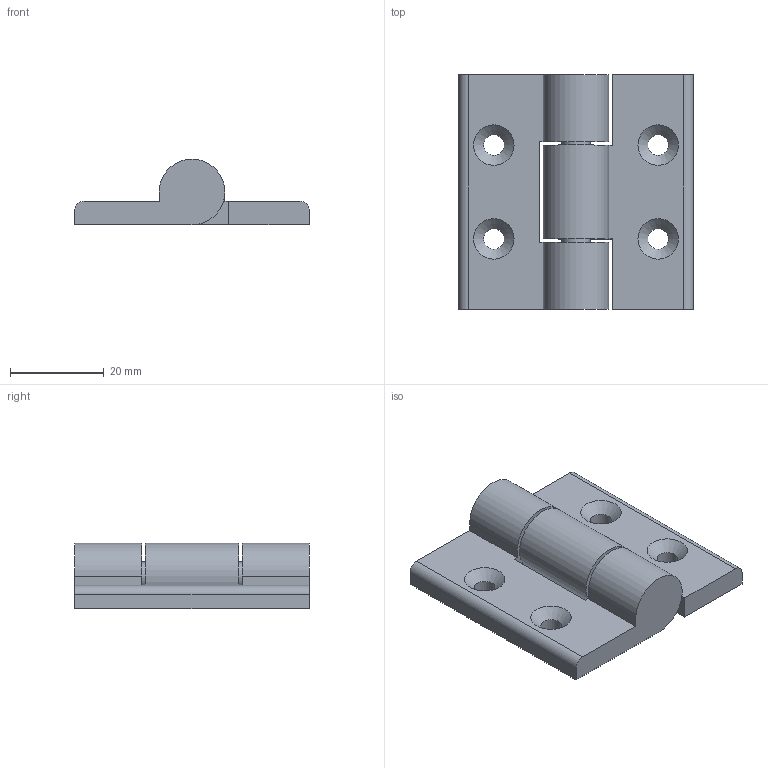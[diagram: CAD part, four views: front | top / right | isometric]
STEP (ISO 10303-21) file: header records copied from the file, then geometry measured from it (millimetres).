
FILE_DESCRIPTION(/* description */ ('STEP AP203'),/* implementation_level */ '2;1');
FILE_NAME(/* name */ 'HHSZ50',/* time_stamp */ '2023-12-22T01:37:28+01:00',/* author */ ('License CC BY-ND 4.0'),/* organization */ ('CADENAS'),/* preprocessor_version */ 'ST-DEVELOPER v19.3',/* originating_system */ 'PARTsolutions',/* authorisation */ ' ');
FILE_SCHEMA (('CONFIG_CONTROL_DESIGN'));
Length unit declared in the file: millimetre
Products named in the file (4): HHSZ50; HHSZ50_b; HHSZ50_c; HHSZ50_a
Assembly tree (3 placements, depth 2):
  HHSZ50
    HHSZ50_b
    HHSZ50_c
    HHSZ50_a
Bounding box: 50 x 50 x 14 mm (x, y, z)
Volume: 16275.8 mm3; surface area: 9285.2 mm2
Topology: 3 solids, 3 shells, 41 faces, 105 edges, 68 vertices
Faces by surface type: plane 20, cylinder 13, cone 4, sphere 4
Full cylindrical faces by diameter (mm): 4.4 x4, 6 x4
Entity records: 1228 total; most frequent: DIRECTION 203, CARTESIAN_POINT 190, ORIENTED_EDGE 166, EDGE_CURVE 83, AXIS2_PLACEMENT_3D 75, EDGE_LOOP 65, FACE_BOUND 65, VERTEX_POINT 62
